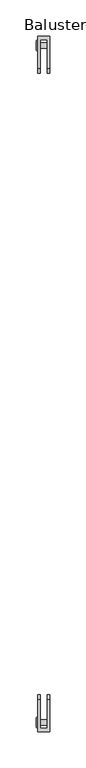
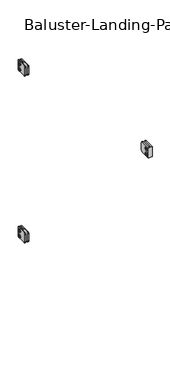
"""IFC4 building model written with IfcOpenShell, lengths in millimetres: railing geometry, Baluster-Landing-Panel-VIVA-BEACON-Upper : Standard_Glass."""

from ifc_helpers import new_model, si_unit, point, frame, origin, place, context, project, spatial, polyline, circle_curve, ellipse_curve, trimmed, outline, extrude, source, transform, mapped, element, save
from ifc_brep_helpers import plane_surface, cylinder_surface, revolved_surface, advanced_brep


def baluster_landing_panel_viva_beacon_upper_standard_glass_00ee7de6(model_context):
    return source(origin(), model_context, "Body", "SolidModel", [
        extrude(outline(polyline([(922.7337279, 970.111725), (920.6867638, 966.5662791), (916.5928355, 966.5662791), (914.5458713, 970.111725), (916.5928355, 973.6571709), (920.6867638, 973.6571709), (922.7337279, 970.111725)])), frame((26.0686477, 0.0, 0.0), z_axis=(1.0, 0.0, 0.0), x_axis=(0.0, 1.0, 0.0)), (0.0, 0.0, 1.0), 1.4969696),
        advanced_brep(
        [(41.1327292, 922.1852455, 970.111725), (41.1327292, 915.0943537, 970.111725), (28.4327292, 915.0943537, 970.111725), (28.4327292, 922.1852455, 970.111725), (28.4327292, 911.2320105, 970.111725), (28.4327292, 926.0475887, 970.111725), (27.5656173, 920.295875, 970.111725), (27.5656173, 916.9837242, 970.111725), (41.1327292, 916.9837242, 970.111725), (41.1327292, 920.295875, 970.111725), (27.5978844, 926.0475887, 970.111725), (27.5978844, 911.2320105, 970.111725), (26.3166123, 912.5132826, 970.111725), (26.3166123, 924.7663167, 970.111725), (26.3166123, 914.3412041, 970.111725), (26.3166123, 922.9383952, 970.111725), (27.5656173, 914.3412041, 970.111725), (27.5656173, 922.9383952, 970.111725)],
        [
            (0, 1, circle_curve(frame((41.1327292, 918.6397996, 970.111725), z_axis=(-1.0, 0.0, 0.0), x_axis=(0.0, -1.0, 0.0)), 3.5454459)),
            (1, 2),
            (2, 3, circle_curve(frame((28.4327292, 918.6397996, 970.111725), z_axis=(1.0, 0.0, 0.0), x_axis=(0.0, -1.0, 0.0)), 3.5454459)),
            (3, 0),
            (1, 0, circle_curve(frame((41.1327292, 918.6397996, 970.111725), z_axis=(-1.0, 0.0, 0.0), x_axis=(0.0, -1.0, 0.0)), 3.5454459)),
            (3, 2, circle_curve(frame((28.4327292, 918.6397996, 970.111725), z_axis=(1.0, 0.0, 0.0), x_axis=(0.0, -1.0, 0.0)), 3.5454459)),
            (2, 4),
            (4, 5, circle_curve(frame((28.4327292, 918.6397996, 970.111725), z_axis=(1.0, 0.0, 0.0), x_axis=(0.0, -1.0, 0.0)), 7.4077891)),
            (5, 3),
            (5, 4, circle_curve(frame((28.4327292, 918.6397996, 970.111725), z_axis=(1.0, 0.0, 0.0), x_axis=(0.0, -1.0, 0.0)), 7.4077891)),
            (6, 7, circle_curve(frame((27.5656173, 918.6397996, 970.111725), z_axis=(-1.0, 0.0, 0.0), x_axis=(0.0, -1.0, 0.0)), 1.6560754)),
            (7, 8),
            (8, 9, circle_curve(frame((41.1327292, 918.6397996, 970.111725), z_axis=(1.0, 0.0, 0.0), x_axis=(0.0, -1.0, 0.0)), 1.6560754)),
            (9, 6),
            (7, 6, circle_curve(frame((27.5656173, 918.6397996, 970.111725), z_axis=(-1.0, 0.0, 0.0), x_axis=(0.0, -1.0, 0.0)), 1.6560754)),
            (9, 8, circle_curve(frame((41.1327292, 918.6397996, 970.111725), z_axis=(1.0, 0.0, 0.0), x_axis=(0.0, -1.0, 0.0)), 1.6560754)),
            (10, 11, circle_curve(frame((27.5978844, 918.6397996, 970.111725), z_axis=(-1.0, 0.0, 0.0), x_axis=(0.0, -1.0, 0.0)), 7.4077891)),
            (11, 12, circle_curve(frame((27.5978844, 912.5132826, 970.111725), z_axis=(0.0, 0.0, -1.0), x_axis=(0.0, -1.0, 0.0)), 1.281272)),
            (12, 13, circle_curve(frame((26.3166123, 918.6397996, 970.111725), z_axis=(1.0, 0.0, 0.0), x_axis=(0.0, -1.0, 0.0)), 6.1265171)),
            (13, 10, circle_curve(frame((27.5978844, 924.7663167, 970.111725), z_axis=(0.0, 0.0, -1.0), x_axis=(0.0, 1.0, 0.0)), 1.281272)),
            (11, 10, circle_curve(frame((27.5978844, 918.6397996, 970.111725), z_axis=(-1.0, 0.0, 0.0), x_axis=(0.0, -1.0, 0.0)), 7.4077891)),
            (13, 12, circle_curve(frame((26.3166123, 918.6397996, 970.111725), z_axis=(1.0, 0.0, 0.0), x_axis=(0.0, -1.0, 0.0)), 6.1265171)),
            (12, 14),
            (14, 15, circle_curve(frame((26.3166123, 918.6397996, 970.111725), z_axis=(1.0, 0.0, 0.0), x_axis=(0.0, -1.0, 0.0)), 4.2985955)),
            (15, 13),
            (15, 14, circle_curve(frame((26.3166123, 918.6397996, 970.111725), z_axis=(1.0, 0.0, 0.0), x_axis=(0.0, -1.0, 0.0)), 4.2985955)),
            (4, 11),
            (10, 5),
            (8, 1),
            (0, 9),
            (14, 16),
            (16, 17, circle_curve(frame((27.5656173, 918.6397996, 970.111725), z_axis=(1.0, 0.0, 0.0), x_axis=(0.0, -1.0, 0.0)), 4.2985955)),
            (17, 15),
            (17, 16, circle_curve(frame((27.5656173, 918.6397996, 970.111725), z_axis=(1.0, 0.0, 0.0), x_axis=(0.0, -1.0, 0.0)), 4.2985955)),
            (16, 7),
            (6, 17),
        ],
        [
            cylinder_surface(frame((31.9294623, 918.6397996, 970.111725), z_axis=(1.0, 0.0, 0.0), x_axis=(0.0, -1.0, 0.0)), 3.5454459),
            plane_surface(frame((28.4327292, 918.6397996, 970.111725), z_axis=(1.0, 0.0, 0.0), x_axis=(0.0, -1.0, 0.0))),
            revolved_surface(polyline([(41.1327292, 916.9837242, 970.111725), (27.5656173, 916.9837242, 970.111725)]), (31.9294623, 918.6397996, 970.111725), (1.0, 0.0, 0.0)),
            revolved_surface(trimmed(ellipse_curve(frame((27.5978844, 912.5132826, 970.111725), z_axis=(0.0, 0.0, 1.0), x_axis=(0.0, -1.0, 0.0)), 1.281272, 1.281272), [point((26.3166123, 912.5132826, 970.111725))], [point((27.5978844, 911.2320105, 970.111725))], True, "CARTESIAN"), (31.9294623, 918.6397996, 970.111725), (1.0, 0.0, 0.0)),
            plane_surface(frame((26.3166123, 918.6397996, 970.111725), z_axis=(-1.0, 0.0, 0.0), x_axis=(0.0, -1.0, 0.0))),
            cylinder_surface(frame((31.9294623, 918.6397996, 970.111725), z_axis=(1.0, 0.0, 0.0), x_axis=(0.0, -1.0, 0.0)), 7.4077891),
            plane_surface(frame((41.1327292, 918.6397996, 970.111725), z_axis=(1.0, 0.0, 0.0), x_axis=(0.0, -1.0, 0.0))),
            revolved_surface(polyline([(27.5656173, 914.3412040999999, 970.111725), (26.3166123, 914.3412040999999, 970.111725)]), (31.9294623, 918.6397996, 970.111725), (1.0, 0.0, 0.0)),
            plane_surface(frame((27.5656173, 918.6397996, 970.111725), z_axis=(-1.0, 0.0, 0.0), x_axis=(0.0, -1.0, 0.0))),
        ],
        [
            (0, [[1, 2, 3, 4]]),
            (0, [[5, -4, 6, -2]]),
            (1, [[-3, 7, 8, 9]]),
            (1, [[-6, -9, 10, -7]]),
            (2, [[11, 12, 13, 14]]),
            (2, [[15, -14, 16, -12]]),
            (3, [[17, 18, 19, 20]]),
            (3, [[21, -20, 22, -18]]),
            (4, [[-19, 23, 24, 25]]),
            (4, [[-22, -25, 26, -23]]),
            (5, [[-8, 27, -17, 28]]),
            (5, [[-10, -28, -21, -27]]),
            (6, [[-13, 29, -1, 30]]),
            (6, [[-16, -30, -5, -29]]),
            (7, [[-24, 31, 32, 33]]),
            (7, [[-26, -33, 34, -31]]),
            (8, [[-32, 35, -11, 36]]),
            (8, [[-34, -36, -15, -35]]),
        ],
    ),
        advanced_brep(
        [(41.1327292, 922.1852455, 945.505475), (41.1327292, 915.0943537, 945.505475), (28.4327292, 915.0943537, 945.505475), (28.4327292, 922.1852455, 945.505475), (28.4327292, 911.2320105, 945.505475), (28.4327292, 926.0475887, 945.505475), (27.5656173, 920.295875, 945.505475), (27.5656173, 916.9837242, 945.505475), (41.1327292, 916.9837242, 945.505475), (41.1327292, 920.295875, 945.505475), (27.5978844, 926.0475887, 945.505475), (27.5978844, 911.2320105, 945.505475), (26.3166123, 912.5132826, 945.505475), (26.3166123, 924.7663167, 945.505475), (26.3166123, 914.3412041, 945.505475), (26.3166123, 922.9383952, 945.505475), (27.5656173, 914.3412041, 945.505475), (27.5656173, 922.9383952, 945.505475)],
        [
            (0, 1, circle_curve(frame((41.1327292, 918.6397996, 945.505475), z_axis=(-1.0, 0.0, 0.0), x_axis=(0.0, -1.0, 0.0)), 3.5454459)),
            (1, 2),
            (2, 3, circle_curve(frame((28.4327292, 918.6397996, 945.505475), z_axis=(1.0, 0.0, 0.0), x_axis=(0.0, -1.0, 0.0)), 3.5454459)),
            (3, 0),
            (1, 0, circle_curve(frame((41.1327292, 918.6397996, 945.505475), z_axis=(-1.0, 0.0, 0.0), x_axis=(0.0, -1.0, 0.0)), 3.5454459)),
            (3, 2, circle_curve(frame((28.4327292, 918.6397996, 945.505475), z_axis=(1.0, 0.0, 0.0), x_axis=(0.0, -1.0, 0.0)), 3.5454459)),
            (2, 4),
            (4, 5, circle_curve(frame((28.4327292, 918.6397996, 945.505475), z_axis=(1.0, 0.0, 0.0), x_axis=(0.0, -1.0, 0.0)), 7.4077891)),
            (5, 3),
            (5, 4, circle_curve(frame((28.4327292, 918.6397996, 945.505475), z_axis=(1.0, 0.0, 0.0), x_axis=(0.0, -1.0, 0.0)), 7.4077891)),
            (6, 7, circle_curve(frame((27.5656173, 918.6397996, 945.505475), z_axis=(-1.0, 0.0, 0.0), x_axis=(0.0, -1.0, 0.0)), 1.6560754)),
            (7, 8),
            (8, 9, circle_curve(frame((41.1327292, 918.6397996, 945.505475), z_axis=(1.0, 0.0, 0.0), x_axis=(0.0, -1.0, 0.0)), 1.6560754)),
            (9, 6),
            (7, 6, circle_curve(frame((27.5656173, 918.6397996, 945.505475), z_axis=(-1.0, 0.0, 0.0), x_axis=(0.0, -1.0, 0.0)), 1.6560754)),
            (9, 8, circle_curve(frame((41.1327292, 918.6397996, 945.505475), z_axis=(1.0, 0.0, 0.0), x_axis=(0.0, -1.0, 0.0)), 1.6560754)),
            (10, 11, circle_curve(frame((27.5978844, 918.6397996, 945.505475), z_axis=(-1.0, 0.0, 0.0), x_axis=(0.0, -1.0, 0.0)), 7.4077891)),
            (11, 12, circle_curve(frame((27.5978844, 912.5132826, 945.505475), z_axis=(0.0, 0.0, -1.0), x_axis=(0.0, -1.0, 0.0)), 1.281272)),
            (12, 13, circle_curve(frame((26.3166123, 918.6397996, 945.505475), z_axis=(1.0, 0.0, 0.0), x_axis=(0.0, -1.0, 0.0)), 6.1265171)),
            (13, 10, circle_curve(frame((27.5978844, 924.7663167, 945.505475), z_axis=(0.0, 0.0, -1.0), x_axis=(0.0, 1.0, 0.0)), 1.281272)),
            (11, 10, circle_curve(frame((27.5978844, 918.6397996, 945.505475), z_axis=(-1.0, 0.0, 0.0), x_axis=(0.0, -1.0, 0.0)), 7.4077891)),
            (13, 12, circle_curve(frame((26.3166123, 918.6397996, 945.505475), z_axis=(1.0, 0.0, 0.0), x_axis=(0.0, -1.0, 0.0)), 6.1265171)),
            (12, 14),
            (14, 15, circle_curve(frame((26.3166123, 918.6397996, 945.505475), z_axis=(1.0, 0.0, 0.0), x_axis=(0.0, -1.0, 0.0)), 4.2985955)),
            (15, 13),
            (15, 14, circle_curve(frame((26.3166123, 918.6397996, 945.505475), z_axis=(1.0, 0.0, 0.0), x_axis=(0.0, -1.0, 0.0)), 4.2985955)),
            (8, 1),
            (0, 9),
            (4, 11),
            (10, 5),
            (14, 16),
            (16, 17, circle_curve(frame((27.5656173, 918.6397996, 945.505475), z_axis=(1.0, 0.0, 0.0), x_axis=(0.0, -1.0, 0.0)), 4.2985955)),
            (17, 15),
            (17, 16, circle_curve(frame((27.5656173, 918.6397996, 945.505475), z_axis=(1.0, 0.0, 0.0), x_axis=(0.0, -1.0, 0.0)), 4.2985955)),
            (16, 7),
            (6, 17),
        ],
        [
            cylinder_surface(frame((31.9294623, 918.6397996, 945.505475), z_axis=(1.0, 0.0, 0.0), x_axis=(0.0, -1.0, 0.0)), 3.5454459),
            plane_surface(frame((28.4327292, 918.6397996, 945.505475), z_axis=(1.0, 0.0, 0.0), x_axis=(0.0, -1.0, 0.0))),
            revolved_surface(polyline([(41.1327292, 916.9837242, 945.505475), (27.5656173, 916.9837242, 945.505475)]), (31.9294623, 918.6397996, 945.505475), (1.0, 0.0, 0.0)),
            revolved_surface(trimmed(ellipse_curve(frame((27.5978844, 912.5132826, 945.505475), z_axis=(0.0, 0.0, 1.0), x_axis=(0.0, -1.0, 0.0)), 1.281272, 1.281272), [point((26.3166123, 912.5132826, 945.505475))], [point((27.5978844, 911.2320105, 945.505475))], True, "CARTESIAN"), (31.9294623, 918.6397996, 945.505475), (1.0, 0.0, 0.0)),
            plane_surface(frame((26.3166123, 918.6397996, 945.505475), z_axis=(-1.0, 0.0, 0.0), x_axis=(0.0, -1.0, 0.0))),
            plane_surface(frame((41.1327292, 918.6397996, 945.505475), z_axis=(1.0, 0.0, 0.0), x_axis=(0.0, -1.0, 0.0))),
            cylinder_surface(frame((31.9294623, 918.6397996, 945.505475), z_axis=(1.0, 0.0, 0.0), x_axis=(0.0, -1.0, 0.0)), 7.4077891),
            revolved_surface(polyline([(27.5656173, 914.3412040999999, 945.505475), (26.3166123, 914.3412040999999, 945.505475)]), (31.9294623, 918.6397996, 945.505475), (1.0, 0.0, 0.0)),
            plane_surface(frame((27.5656173, 918.6397996, 945.505475), z_axis=(-1.0, 0.0, 0.0), x_axis=(0.0, -1.0, 0.0))),
        ],
        [
            (0, [[1, 2, 3, 4]]),
            (0, [[5, -4, 6, -2]]),
            (1, [[-3, 7, 8, 9]]),
            (1, [[-6, -9, 10, -7]]),
            (2, [[11, 12, 13, 14]]),
            (2, [[15, -14, 16, -12]]),
            (3, [[17, 18, 19, 20]]),
            (3, [[21, -20, 22, -18]]),
            (4, [[-19, 23, 24, 25]]),
            (4, [[-22, -25, 26, -23]]),
            (5, [[-13, 27, -1, 28]]),
            (5, [[-16, -28, -5, -27]]),
            (6, [[-8, 29, -17, 30]]),
            (6, [[-10, -30, -21, -29]]),
            (7, [[-24, 31, 32, 33]]),
            (7, [[-26, -33, 34, -31]]),
            (8, [[-32, 35, -11, 36]]),
            (8, [[-34, -36, -15, -35]]),
        ],
    ),
        extrude(outline(polyline([(922.7337279, 945.505475), (920.6867638, 941.9600291), (916.5928355, 941.9600291), (914.5458713, 945.505475), (916.5928355, 949.0509209), (920.6867638, 949.0509209), (922.7337279, 945.505475)])), frame((26.0686477, 0.0, 0.0), z_axis=(1.0, 0.0, 0.0), x_axis=(0.0, 1.0, 0.0)), (0.0, 0.0, 1.0), 1.4969696),
        advanced_brep(
        [(28.4327292, 931.2731444, 980.0336), (28.4327292, 931.2731444, 935.5836), (28.4327292, 886.8231444, 935.5836), (28.4327292, 880.4731444, 941.9336), (28.4327292, 880.4731444, 973.6836), (28.4327292, 886.8231444, 980.0336), (44.3077292, 931.2731444, 980.0336), (44.3077292, 886.8231444, 980.0336), (44.3077292, 880.4731444, 973.6836), (44.3077292, 880.4731444, 941.9336), (44.3077292, 886.8231444, 935.5836), (44.3077292, 931.2731444, 935.5836), (41.1327292, 886.8231444, 935.5836), (41.1327292, 926.555064, 935.5836), (31.6077292, 926.555064, 935.5836), (31.6077292, 886.8231444, 935.5836), (41.1327292, 926.555064, 980.0336), (31.6077292, 926.555064, 980.0336), (31.6077292, 886.8231444, 980.0336), (31.6077292, 880.4731444, 973.6836), (31.6077292, 880.4731444, 941.9336), (41.1327292, 880.4731444, 941.9336), (41.1327292, 880.4731444, 973.6836), (41.1327292, 886.8231444, 980.0336)],
        [
            (0, 1),
            (1, 2),
            (2, 3, circle_curve(frame((28.4327292, 886.8231444, 941.9336), z_axis=(-1.0, 0.0, 0.0), x_axis=(0.0, -1.0, 0.0)), 6.35)),
            (3, 4),
            (4, 5, circle_curve(frame((28.4327292, 886.8231444, 973.6836), z_axis=(-1.0, 0.0, 0.0), x_axis=(0.0, -1.0, 0.0)), 6.35)),
            (5, 0),
            (6, 7),
            (7, 8, circle_curve(frame((44.3077292, 886.8231444, 973.6836), z_axis=(1.0, 0.0, 0.0), x_axis=(0.0, -1.0, 0.0)), 6.35)),
            (8, 9),
            (9, 10, circle_curve(frame((44.3077292, 886.8231444, 941.9336), z_axis=(1.0, 0.0, 0.0), x_axis=(0.0, -1.0, 0.0)), 6.35)),
            (10, 11),
            (11, 6),
            (0, 6),
            (11, 1),
            (10, 12),
            (12, 13),
            (13, 14),
            (14, 15),
            (15, 2),
            (13, 16),
            (16, 17),
            (17, 14),
            (17, 18),
            (18, 19, circle_curve(frame((31.6077292, 886.8231444, 973.6836), z_axis=(1.0, 0.0, 0.0), x_axis=(0.0, -1.0, 0.0)), 6.35)),
            (19, 20),
            (20, 15, circle_curve(frame((31.6077292, 886.8231444, 941.9336), z_axis=(1.0, 0.0, 0.0), x_axis=(0.0, -1.0, 0.0)), 6.35)),
            (12, 21, circle_curve(frame((41.1327292, 886.8231444, 941.9336), z_axis=(-1.0, 0.0, 0.0), x_axis=(0.0, -1.0, 0.0)), 6.35)),
            (21, 22),
            (22, 23, circle_curve(frame((41.1327292, 886.8231444, 973.6836), z_axis=(-1.0, 0.0, 0.0), x_axis=(0.0, -1.0, 0.0)), 6.35)),
            (23, 16),
            (20, 3),
            (9, 21),
            (19, 4),
            (8, 22),
            (18, 5),
            (7, 23),
        ],
        [
            plane_surface(frame((28.4327292, 931.2731444, 935.5836), z_axis=(-1.0, 0.0, 0.0), x_axis=(0.0, 0.0, -1.0))),
            plane_surface(frame((44.3077292, 931.2731444, 935.5836), z_axis=(1.0, 0.0, 0.0), x_axis=(0.0, 0.0, 1.0))),
            plane_surface(frame((28.4327292, 931.2731444, 980.0336), z_axis=(0.0, 1.0, 0.0), x_axis=(1.0, 0.0, 0.0))),
            plane_surface(frame((28.4327292, 931.2731444, 935.5836), z_axis=(0.0, 0.0, -1.0), x_axis=(1.0, 0.0, 0.0))),
            plane_surface(frame((41.1327292, 926.555064, 992.7336), z_axis=(0.0, -1.0, 0.0), x_axis=(0.0, 0.0, -1.0))),
            plane_surface(frame((31.6077292, 926.555064, 992.7336), z_axis=(1.0, 0.0, 0.0), x_axis=(0.0, 0.0, -1.0))),
            plane_surface(frame((41.1327292, 867.7731444, 992.7336), z_axis=(-1.0, 0.0, 0.0), x_axis=(0.0, 0.0, -1.0))),
            cylinder_surface(frame((44.3077292, 886.8231444, 941.9336), z_axis=(-1.0, 0.0, 0.0), x_axis=(0.0, -1.0, 0.0)), 6.35),
            plane_surface(frame((28.4327292, 880.4731444, 941.9336), z_axis=(0.0, -1.0, 0.0), x_axis=(1.0, 0.0, 0.0))),
            cylinder_surface(frame((44.3077292, 886.8231444, 973.6836), z_axis=(-1.0, 0.0, 0.0), x_axis=(0.0, -1.0, 0.0)), 6.35),
            plane_surface(frame((28.4327292, 886.8231444, 980.0336), z_axis=(0.0, 0.0, 1.0), x_axis=(1.0, 0.0, 0.0))),
        ],
        [
            (0, [[1, 2, 3, 4, 5, 6]]),
            (1, [[7, 8, 9, 10, 11, 12]]),
            (2, [[-1, 13, -12, 14]]),
            (3, [[-2, -14, -11, 15, 16, 17, 18, 19]]),
            (4, [[20, 21, 22, -17]]),
            (5, [[-22, 23, 24, 25, 26, -18]]),
            (6, [[-20, -16, 27, 28, 29, 30]]),
            (7, [[-3, -19, -26, 31]]),
            (7, [[-10, 32, -27, -15]]),
            (8, [[-4, -31, -25, 33]]),
            (8, [[-9, 34, -28, -32]]),
            (9, [[-5, -33, -24, 35]]),
            (9, [[-8, 36, -29, -34]]),
            (10, [[-6, -35, -23, -21, -30, -36, -7, -13]]),
        ],
    ),
        extrude(outline(polyline([(922.7337279, 220.73255), (920.6867638, 217.1871041), (916.5928355, 217.1871041), (914.5458713, 220.73255), (916.5928355, 224.2779959), (920.6867638, 224.2779959), (922.7337279, 220.73255)])), frame((26.0686477, 0.0, 0.0), z_axis=(1.0, 0.0, 0.0), x_axis=(0.0, 1.0, 0.0)), (0.0, 0.0, 1.0), 1.4969696),
        advanced_brep(
        [(41.1327292, 922.1852455, 220.73255), (41.1327292, 915.0943537, 220.73255), (28.4327292, 915.0943537, 220.73255), (28.4327292, 922.1852455, 220.73255), (28.4327292, 911.2320105, 220.73255), (28.4327292, 926.0475887, 220.73255), (27.5656173, 920.295875, 220.73255), (27.5656173, 916.9837242, 220.73255), (41.1327292, 916.9837242, 220.73255), (41.1327292, 920.295875, 220.73255), (27.5978844, 926.0475887, 220.73255), (27.5978844, 911.2320105, 220.73255), (26.3166123, 912.5132826, 220.73255), (26.3166123, 924.7663167, 220.73255), (26.3166123, 914.3412041, 220.73255), (26.3166123, 922.9383952, 220.73255), (27.5656173, 914.3412041, 220.73255), (27.5656173, 922.9383952, 220.73255)],
        [
            (0, 1, circle_curve(frame((41.1327292, 918.6397996, 220.73255), z_axis=(-1.0, 0.0, 0.0), x_axis=(0.0, -1.0, 0.0)), 3.5454459)),
            (1, 2),
            (2, 3, circle_curve(frame((28.4327292, 918.6397996, 220.73255), z_axis=(1.0, 0.0, 0.0), x_axis=(0.0, -1.0, 0.0)), 3.5454459)),
            (3, 0),
            (1, 0, circle_curve(frame((41.1327292, 918.6397996, 220.73255), z_axis=(-1.0, 0.0, 0.0), x_axis=(0.0, -1.0, 0.0)), 3.5454459)),
            (3, 2, circle_curve(frame((28.4327292, 918.6397996, 220.73255), z_axis=(1.0, 0.0, 0.0), x_axis=(0.0, -1.0, 0.0)), 3.5454459)),
            (2, 4),
            (4, 5, circle_curve(frame((28.4327292, 918.6397996, 220.73255), z_axis=(1.0, 0.0, 0.0), x_axis=(0.0, -1.0, 0.0)), 7.4077891)),
            (5, 3),
            (5, 4, circle_curve(frame((28.4327292, 918.6397996, 220.73255), z_axis=(1.0, 0.0, 0.0), x_axis=(0.0, -1.0, 0.0)), 7.4077891)),
            (6, 7, circle_curve(frame((27.5656173, 918.6397996, 220.73255), z_axis=(-1.0, 0.0, 0.0), x_axis=(0.0, -1.0, 0.0)), 1.6560754)),
            (7, 8),
            (8, 9, circle_curve(frame((41.1327292, 918.6397996, 220.73255), z_axis=(1.0, 0.0, 0.0), x_axis=(0.0, -1.0, 0.0)), 1.6560754)),
            (9, 6),
            (7, 6, circle_curve(frame((27.5656173, 918.6397996, 220.73255), z_axis=(-1.0, 0.0, 0.0), x_axis=(0.0, -1.0, 0.0)), 1.6560754)),
            (9, 8, circle_curve(frame((41.1327292, 918.6397996, 220.73255), z_axis=(1.0, 0.0, 0.0), x_axis=(0.0, -1.0, 0.0)), 1.6560754)),
            (10, 11, circle_curve(frame((27.5978844, 918.6397996, 220.73255), z_axis=(-1.0, 0.0, 0.0), x_axis=(0.0, -1.0, 0.0)), 7.4077891)),
            (11, 12, circle_curve(frame((27.5978844, 912.5132826, 220.73255), z_axis=(0.0, 0.0, -1.0), x_axis=(0.0, -1.0, 0.0)), 1.281272)),
            (12, 13, circle_curve(frame((26.3166123, 918.6397996, 220.73255), z_axis=(1.0, 0.0, 0.0), x_axis=(0.0, -1.0, 0.0)), 6.1265171)),
            (13, 10, circle_curve(frame((27.5978844, 924.7663167, 220.73255), z_axis=(0.0, 0.0, -1.0), x_axis=(0.0, 1.0, 0.0)), 1.281272)),
            (11, 10, circle_curve(frame((27.5978844, 918.6397996, 220.73255), z_axis=(-1.0, 0.0, 0.0), x_axis=(0.0, -1.0, 0.0)), 7.4077891)),
            (13, 12, circle_curve(frame((26.3166123, 918.6397996, 220.73255), z_axis=(1.0, 0.0, 0.0), x_axis=(0.0, -1.0, 0.0)), 6.1265171)),
            (12, 14),
            (14, 15, circle_curve(frame((26.3166123, 918.6397996, 220.73255), z_axis=(1.0, 0.0, 0.0), x_axis=(0.0, -1.0, 0.0)), 4.2985955)),
            (15, 13),
            (15, 14, circle_curve(frame((26.3166123, 918.6397996, 220.73255), z_axis=(1.0, 0.0, 0.0), x_axis=(0.0, -1.0, 0.0)), 4.2985955)),
            (4, 11),
            (10, 5),
            (8, 1),
            (0, 9),
            (14, 16),
            (16, 17, circle_curve(frame((27.5656173, 918.6397996, 220.73255), z_axis=(1.0, 0.0, 0.0), x_axis=(0.0, -1.0, 0.0)), 4.2985955)),
            (17, 15),
            (17, 16, circle_curve(frame((27.5656173, 918.6397996, 220.73255), z_axis=(1.0, 0.0, 0.0), x_axis=(0.0, -1.0, 0.0)), 4.2985955)),
            (16, 7),
            (6, 17),
        ],
        [
            cylinder_surface(frame((31.9294623, 918.6397996, 220.73255), z_axis=(1.0, 0.0, 0.0), x_axis=(0.0, -1.0, 0.0)), 3.5454459),
            plane_surface(frame((28.4327292, 918.6397996, 220.73255), z_axis=(1.0, 0.0, 0.0), x_axis=(0.0, -1.0, 0.0))),
            revolved_surface(polyline([(41.1327292, 916.9837242, 220.73255), (27.5656173, 916.9837242, 220.73255)]), (31.9294623, 918.6397996, 220.73255), (1.0, 0.0, 0.0)),
            revolved_surface(trimmed(ellipse_curve(frame((27.5978844, 912.5132826, 220.73255), z_axis=(0.0, 0.0, 1.0), x_axis=(0.0, -1.0, 0.0)), 1.281272, 1.281272), [point((26.3166123, 912.5132826, 220.73255))], [point((27.5978844, 911.2320105, 220.73255))], True, "CARTESIAN"), (31.9294623, 918.6397996, 220.73255), (1.0, 0.0, 0.0)),
            plane_surface(frame((26.3166123, 918.6397996, 220.73255), z_axis=(-1.0, 0.0, 0.0), x_axis=(0.0, -1.0, 0.0))),
            cylinder_surface(frame((31.9294623, 918.6397996, 220.73255), z_axis=(1.0, 0.0, 0.0), x_axis=(0.0, -1.0, 0.0)), 7.4077891),
            plane_surface(frame((41.1327292, 918.6397996, 220.73255), z_axis=(1.0, 0.0, 0.0), x_axis=(0.0, -1.0, 0.0))),
            revolved_surface(polyline([(27.5656173, 914.3412040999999, 220.73255), (26.3166123, 914.3412040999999, 220.73255)]), (31.9294623, 918.6397996, 220.73255), (1.0, 0.0, 0.0)),
            plane_surface(frame((27.5656173, 918.6397996, 220.73255), z_axis=(-1.0, 0.0, 0.0), x_axis=(0.0, -1.0, 0.0))),
        ],
        [
            (0, [[1, 2, 3, 4]]),
            (0, [[5, -4, 6, -2]]),
            (1, [[-3, 7, 8, 9]]),
            (1, [[-6, -9, 10, -7]]),
            (2, [[11, 12, 13, 14]]),
            (2, [[15, -14, 16, -12]]),
            (3, [[17, 18, 19, 20]]),
            (3, [[21, -20, 22, -18]]),
            (4, [[-19, 23, 24, 25]]),
            (4, [[-22, -25, 26, -23]]),
            (5, [[-8, 27, -17, 28]]),
            (5, [[-10, -28, -21, -27]]),
            (6, [[-13, 29, -1, 30]]),
            (6, [[-16, -30, -5, -29]]),
            (7, [[-24, 31, 32, 33]]),
            (7, [[-26, -33, 34, -31]]),
            (8, [[-32, 35, -11, 36]]),
            (8, [[-34, -36, -15, -35]]),
        ],
    ),
        advanced_brep(
        [(41.1327292, 922.1852455, 196.1263), (41.1327292, 915.0943537, 196.1263), (28.4327292, 915.0943537, 196.1263), (28.4327292, 922.1852455, 196.1263), (28.4327292, 911.2320105, 196.1263), (28.4327292, 926.0475887, 196.1263), (27.5656173, 920.295875, 196.1263), (27.5656173, 916.9837242, 196.1263), (41.1327292, 916.9837242, 196.1263), (41.1327292, 920.295875, 196.1263), (27.5978844, 926.0475887, 196.1263), (27.5978844, 911.2320105, 196.1263), (26.3166123, 912.5132826, 196.1263), (26.3166123, 924.7663167, 196.1263), (26.3166123, 914.3412041, 196.1263), (26.3166123, 922.9383952, 196.1263), (27.5656173, 914.3412041, 196.1263), (27.5656173, 922.9383952, 196.1263)],
        [
            (0, 1, circle_curve(frame((41.1327292, 918.6397996, 196.1263), z_axis=(-1.0, 0.0, 0.0), x_axis=(0.0, -1.0, 0.0)), 3.5454459)),
            (1, 2),
            (2, 3, circle_curve(frame((28.4327292, 918.6397996, 196.1263), z_axis=(1.0, 0.0, 0.0), x_axis=(0.0, -1.0, 0.0)), 3.5454459)),
            (3, 0),
            (1, 0, circle_curve(frame((41.1327292, 918.6397996, 196.1263), z_axis=(-1.0, 0.0, 0.0), x_axis=(0.0, -1.0, 0.0)), 3.5454459)),
            (3, 2, circle_curve(frame((28.4327292, 918.6397996, 196.1263), z_axis=(1.0, 0.0, 0.0), x_axis=(0.0, -1.0, 0.0)), 3.5454459)),
            (2, 4),
            (4, 5, circle_curve(frame((28.4327292, 918.6397996, 196.1263), z_axis=(1.0, 0.0, 0.0), x_axis=(0.0, -1.0, 0.0)), 7.4077891)),
            (5, 3),
            (5, 4, circle_curve(frame((28.4327292, 918.6397996, 196.1263), z_axis=(1.0, 0.0, 0.0), x_axis=(0.0, -1.0, 0.0)), 7.4077891)),
            (6, 7, circle_curve(frame((27.5656173, 918.6397996, 196.1263), z_axis=(-1.0, 0.0, 0.0), x_axis=(0.0, -1.0, 0.0)), 1.6560754)),
            (7, 8),
            (8, 9, circle_curve(frame((41.1327292, 918.6397996, 196.1263), z_axis=(1.0, 0.0, 0.0), x_axis=(0.0, -1.0, 0.0)), 1.6560754)),
            (9, 6),
            (7, 6, circle_curve(frame((27.5656173, 918.6397996, 196.1263), z_axis=(-1.0, 0.0, 0.0), x_axis=(0.0, -1.0, 0.0)), 1.6560754)),
            (9, 8, circle_curve(frame((41.1327292, 918.6397996, 196.1263), z_axis=(1.0, 0.0, 0.0), x_axis=(0.0, -1.0, 0.0)), 1.6560754)),
            (10, 11, circle_curve(frame((27.5978844, 918.6397996, 196.1263), z_axis=(-1.0, 0.0, 0.0), x_axis=(0.0, -1.0, 0.0)), 7.4077891)),
            (11, 12, circle_curve(frame((27.5978844, 912.5132826, 196.1263), z_axis=(0.0, 0.0, -1.0), x_axis=(0.0, -1.0, 0.0)), 1.281272)),
            (12, 13, circle_curve(frame((26.3166123, 918.6397996, 196.1263), z_axis=(1.0, 0.0, 0.0), x_axis=(0.0, -1.0, 0.0)), 6.1265171)),
            (13, 10, circle_curve(frame((27.5978844, 924.7663167, 196.1263), z_axis=(0.0, 0.0, -1.0), x_axis=(0.0, 1.0, 0.0)), 1.281272)),
            (11, 10, circle_curve(frame((27.5978844, 918.6397996, 196.1263), z_axis=(-1.0, 0.0, 0.0), x_axis=(0.0, -1.0, 0.0)), 7.4077891)),
            (13, 12, circle_curve(frame((26.3166123, 918.6397996, 196.1263), z_axis=(1.0, 0.0, 0.0), x_axis=(0.0, -1.0, 0.0)), 6.1265171)),
            (12, 14),
            (14, 15, circle_curve(frame((26.3166123, 918.6397996, 196.1263), z_axis=(1.0, 0.0, 0.0), x_axis=(0.0, -1.0, 0.0)), 4.2985955)),
            (15, 13),
            (15, 14, circle_curve(frame((26.3166123, 918.6397996, 196.1263), z_axis=(1.0, 0.0, 0.0), x_axis=(0.0, -1.0, 0.0)), 4.2985955)),
            (8, 1),
            (0, 9),
            (4, 11),
            (10, 5),
            (14, 16),
            (16, 17, circle_curve(frame((27.5656173, 918.6397996, 196.1263), z_axis=(1.0, 0.0, 0.0), x_axis=(0.0, -1.0, 0.0)), 4.2985955)),
            (17, 15),
            (17, 16, circle_curve(frame((27.5656173, 918.6397996, 196.1263), z_axis=(1.0, 0.0, 0.0), x_axis=(0.0, -1.0, 0.0)), 4.2985955)),
            (16, 7),
            (6, 17),
        ],
        [
            cylinder_surface(frame((31.9294623, 918.6397996, 196.1263), z_axis=(1.0, 0.0, 0.0), x_axis=(0.0, -1.0, 0.0)), 3.5454459),
            plane_surface(frame((28.4327292, 918.6397996, 196.1263), z_axis=(1.0, 0.0, 0.0), x_axis=(0.0, -1.0, 0.0))),
            revolved_surface(polyline([(41.1327292, 916.9837242, 196.1263), (27.5656173, 916.9837242, 196.1263)]), (31.9294623, 918.6397996, 196.1263), (1.0, 0.0, 0.0)),
            revolved_surface(trimmed(ellipse_curve(frame((27.5978844, 912.5132826, 196.1263), z_axis=(0.0, 0.0, 1.0), x_axis=(0.0, -1.0, 0.0)), 1.281272, 1.281272), [point((26.3166123, 912.5132826, 196.1263))], [point((27.5978844, 911.2320105, 196.1263))], True, "CARTESIAN"), (31.9294623, 918.6397996, 196.1263), (1.0, 0.0, 0.0)),
            plane_surface(frame((26.3166123, 918.6397996, 196.1263), z_axis=(-1.0, 0.0, 0.0), x_axis=(0.0, -1.0, 0.0))),
            plane_surface(frame((41.1327292, 918.6397996, 196.1263), z_axis=(1.0, 0.0, 0.0), x_axis=(0.0, -1.0, 0.0))),
            cylinder_surface(frame((31.9294623, 918.6397996, 196.1263), z_axis=(1.0, 0.0, 0.0), x_axis=(0.0, -1.0, 0.0)), 7.4077891),
            revolved_surface(polyline([(27.5656173, 914.3412040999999, 196.1263), (26.3166123, 914.3412040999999, 196.1263)]), (31.9294623, 918.6397996, 196.1263), (1.0, 0.0, 0.0)),
            plane_surface(frame((27.5656173, 918.6397996, 196.1263), z_axis=(-1.0, 0.0, 0.0), x_axis=(0.0, -1.0, 0.0))),
        ],
        [
            (0, [[1, 2, 3, 4]]),
            (0, [[5, -4, 6, -2]]),
            (1, [[-3, 7, 8, 9]]),
            (1, [[-6, -9, 10, -7]]),
            (2, [[11, 12, 13, 14]]),
            (2, [[15, -14, 16, -12]]),
            (3, [[17, 18, 19, 20]]),
            (3, [[21, -20, 22, -18]]),
            (4, [[-19, 23, 24, 25]]),
            (4, [[-22, -25, 26, -23]]),
            (5, [[-13, 27, -1, 28]]),
            (5, [[-16, -28, -5, -27]]),
            (6, [[-8, 29, -17, 30]]),
            (6, [[-10, -30, -21, -29]]),
            (7, [[-24, 31, 32, 33]]),
            (7, [[-26, -33, 34, -31]]),
            (8, [[-32, 35, -11, 36]]),
            (8, [[-34, -36, -15, -35]]),
        ],
    ),
        extrude(outline(polyline([(922.7337279, 196.1263), (920.6867638, 192.5808541), (916.5928355, 192.5808541), (914.5458713, 196.1263), (916.5928355, 199.6717459), (920.6867638, 199.6717459), (922.7337279, 196.1263)])), frame((26.0686477, 0.0, 0.0), z_axis=(1.0, 0.0, 0.0), x_axis=(0.0, 1.0, 0.0)), (0.0, 0.0, 1.0), 1.4969696),
        advanced_brep(
        [(28.4327292, 931.2731444, 230.654425), (28.4327292, 931.2731444, 186.204425), (28.4327292, 886.8231444, 186.204425), (28.4327292, 880.4731444, 192.554425), (28.4327292, 880.4731444, 224.304425), (28.4327292, 886.8231444, 230.654425), (44.3077292, 931.2731444, 230.654425), (44.3077292, 886.8231444, 230.654425), (44.3077292, 880.4731444, 224.304425), (44.3077292, 880.4731444, 192.554425), (44.3077292, 886.8231444, 186.204425), (44.3077292, 931.2731444, 186.204425), (41.1327292, 886.8231444, 186.204425), (41.1327292, 926.555064, 186.204425), (31.6077292, 926.555064, 186.204425), (31.6077292, 886.8231444, 186.204425), (41.1327292, 926.555064, 230.654425), (31.6077292, 926.555064, 230.654425), (31.6077292, 886.8231444, 230.654425), (31.6077292, 880.4731444, 224.304425), (31.6077292, 880.4731444, 192.554425), (41.1327292, 880.4731444, 192.554425), (41.1327292, 880.4731444, 224.304425), (41.1327292, 886.8231444, 230.654425)],
        [
            (0, 1),
            (1, 2),
            (2, 3, circle_curve(frame((28.4327292, 886.8231444, 192.554425), z_axis=(-1.0, 0.0, 0.0), x_axis=(0.0, -1.0, 0.0)), 6.35)),
            (3, 4),
            (4, 5, circle_curve(frame((28.4327292, 886.8231444, 224.304425), z_axis=(-1.0, 0.0, 0.0), x_axis=(0.0, -1.0, 0.0)), 6.35)),
            (5, 0),
            (6, 7),
            (7, 8, circle_curve(frame((44.3077292, 886.8231444, 224.304425), z_axis=(1.0, 0.0, 0.0), x_axis=(0.0, -1.0, 0.0)), 6.35)),
            (8, 9),
            (9, 10, circle_curve(frame((44.3077292, 886.8231444, 192.554425), z_axis=(1.0, 0.0, 0.0), x_axis=(0.0, -1.0, 0.0)), 6.35)),
            (10, 11),
            (11, 6),
            (0, 6),
            (11, 1),
            (10, 12),
            (12, 13),
            (13, 14),
            (14, 15),
            (15, 2),
            (13, 16),
            (16, 17),
            (17, 14),
            (17, 18),
            (18, 19, circle_curve(frame((31.6077292, 886.8231444, 224.304425), z_axis=(1.0, 0.0, 0.0), x_axis=(0.0, -1.0, 0.0)), 6.35)),
            (19, 20),
            (20, 15, circle_curve(frame((31.6077292, 886.8231444, 192.554425), z_axis=(1.0, 0.0, 0.0), x_axis=(0.0, -1.0, 0.0)), 6.35)),
            (12, 21, circle_curve(frame((41.1327292, 886.8231444, 192.554425), z_axis=(-1.0, 0.0, 0.0), x_axis=(0.0, -1.0, 0.0)), 6.35)),
            (21, 22),
            (22, 23, circle_curve(frame((41.1327292, 886.8231444, 224.304425), z_axis=(-1.0, 0.0, 0.0), x_axis=(0.0, -1.0, 0.0)), 6.35)),
            (23, 16),
            (20, 3),
            (9, 21),
            (19, 4),
            (8, 22),
            (18, 5),
            (7, 23),
        ],
        [
            plane_surface(frame((28.4327292, 931.2731444, 186.204425), z_axis=(-1.0, 0.0, 0.0), x_axis=(0.0, 0.0, -1.0))),
            plane_surface(frame((44.3077292, 931.2731444, 186.204425), z_axis=(1.0, 0.0, 0.0), x_axis=(0.0, 0.0, 1.0))),
            plane_surface(frame((28.4327292, 931.2731444, 230.654425), z_axis=(0.0, 1.0, 0.0), x_axis=(1.0, 0.0, 0.0))),
            plane_surface(frame((28.4327292, 931.2731444, 186.204425), z_axis=(0.0, 0.0, -1.0), x_axis=(1.0, 0.0, 0.0))),
            plane_surface(frame((41.1327292, 926.555064, 243.354425), z_axis=(0.0, -1.0, 0.0), x_axis=(0.0, 0.0, -1.0))),
            plane_surface(frame((31.6077292, 926.555064, 243.354425), z_axis=(1.0, 0.0, 0.0), x_axis=(0.0, 0.0, -1.0))),
            plane_surface(frame((41.1327292, 867.7731444, 243.354425), z_axis=(-1.0, 0.0, 0.0), x_axis=(0.0, 0.0, -1.0))),
            cylinder_surface(frame((44.3077292, 886.8231444, 192.554425), z_axis=(-1.0, 0.0, 0.0), x_axis=(0.0, -1.0, 0.0)), 6.35),
            plane_surface(frame((28.4327292, 880.4731444, 192.554425), z_axis=(0.0, -1.0, 0.0), x_axis=(1.0, 0.0, 0.0))),
            cylinder_surface(frame((44.3077292, 886.8231444, 224.304425), z_axis=(-1.0, 0.0, 0.0), x_axis=(0.0, -1.0, 0.0)), 6.35),
            plane_surface(frame((28.4327292, 886.8231444, 230.654425), z_axis=(0.0, 0.0, 1.0), x_axis=(1.0, 0.0, 0.0))),
        ],
        [
            (0, [[1, 2, 3, 4, 5, 6]]),
            (1, [[7, 8, 9, 10, 11, 12]]),
            (2, [[-1, 13, -12, 14]]),
            (3, [[-2, -14, -11, 15, 16, 17, 18, 19]]),
            (4, [[20, 21, 22, -17]]),
            (5, [[-22, 23, 24, 25, 26, -18]]),
            (6, [[-20, -16, 27, 28, 29, 30]]),
            (7, [[-3, -19, -26, 31]]),
            (7, [[-10, 32, -27, -15]]),
            (8, [[-4, -31, -25, 33]]),
            (8, [[-9, 34, -28, -32]]),
            (9, [[-5, -33, -24, 35]]),
            (9, [[-8, 36, -29, -34]]),
            (10, [[-6, -35, -23, -21, -30, -36, -7, -13]]),
        ],
    ),
        extrude(outline(polyline([(-18.4480835, 1154.8641267), (-16.4011194, 1158.4095726), (-12.3071911, 1158.4095726), (-10.2602269, 1154.8641267), (-12.3071911, 1151.3186808), (-16.4011194, 1151.3186808), (-18.4480835, 1154.8641267)])), frame((26.0686477, 0.0, 0.0), z_axis=(1.0, 0.0, 0.0), x_axis=(0.0, 1.0, 0.0)), (0.0, 0.0, 1.0), 1.4969696),
        advanced_brep(
        [(41.1327292, -17.8996011, 1154.8641267), (28.4327292, -17.8996011, 1154.8641267), (28.4327292, -10.8087093, 1154.8641267), (41.1327292, -10.8087093, 1154.8641267), (28.4327292, -21.7619443, 1154.8641267), (28.4327292, -6.9463661, 1154.8641267), (27.5656173, -16.0102306, 1154.8641267), (41.1327292, -16.0102306, 1154.8641267), (41.1327292, -12.6980798, 1154.8641267), (27.5656173, -12.6980798, 1154.8641267), (27.5978844, -21.7619443, 1154.8641267), (26.3166123, -20.4806723, 1154.8641267), (26.3166123, -8.2276382, 1154.8641267), (27.5978844, -6.9463661, 1154.8641267), (26.3166123, -18.6527508, 1154.8641267), (26.3166123, -10.0555597, 1154.8641267), (27.5656173, -18.6527508, 1154.8641267), (27.5656173, -10.0555597, 1154.8641267)],
        [
            (0, 1),
            (1, 2, circle_curve(frame((28.4327292, -14.3541552, 1154.8641267), z_axis=(1.0, 0.0, 0.0), x_axis=(0.0, 1.0, 0.0)), 3.5454459)),
            (2, 3),
            (3, 0, circle_curve(frame((41.1327292, -14.3541552, 1154.8641267), z_axis=(-1.0, 0.0, 0.0), x_axis=(0.0, 1.0, 0.0)), 3.5454459)),
            (2, 1, circle_curve(frame((28.4327292, -14.3541552, 1154.8641267), z_axis=(1.0, 0.0, 0.0), x_axis=(0.0, 1.0, 0.0)), 3.5454459)),
            (0, 3, circle_curve(frame((41.1327292, -14.3541552, 1154.8641267), z_axis=(-1.0, 0.0, 0.0), x_axis=(0.0, 1.0, 0.0)), 3.5454459)),
            (1, 4),
            (4, 5, circle_curve(frame((28.4327292, -14.3541552, 1154.8641267), z_axis=(1.0, 0.0, 0.0), x_axis=(0.0, 1.0, 0.0)), 7.4077891)),
            (5, 2),
            (5, 4, circle_curve(frame((28.4327292, -14.3541552, 1154.8641267), z_axis=(1.0, 0.0, 0.0), x_axis=(0.0, 1.0, 0.0)), 7.4077891)),
            (6, 7),
            (7, 8, circle_curve(frame((41.1327292, -14.3541552, 1154.8641267), z_axis=(1.0, 0.0, 0.0), x_axis=(0.0, 1.0, 0.0)), 1.6560754)),
            (8, 9),
            (9, 6, circle_curve(frame((27.5656173, -14.3541552, 1154.8641267), z_axis=(-1.0, 0.0, 0.0), x_axis=(0.0, 1.0, 0.0)), 1.6560754)),
            (8, 7, circle_curve(frame((41.1327292, -14.3541552, 1154.8641267), z_axis=(1.0, 0.0, 0.0), x_axis=(0.0, 1.0, 0.0)), 1.6560754)),
            (6, 9, circle_curve(frame((27.5656173, -14.3541552, 1154.8641267), z_axis=(-1.0, 0.0, 0.0), x_axis=(0.0, 1.0, 0.0)), 1.6560754)),
            (10, 11, circle_curve(frame((27.5978844, -20.4806723, 1154.8641267), z_axis=(0.0, 0.0, -1.0), x_axis=(0.0, -1.0, 0.0)), 1.281272)),
            (11, 12, circle_curve(frame((26.3166123, -14.3541552, 1154.8641267), z_axis=(1.0, 0.0, 0.0), x_axis=(0.0, 1.0, 0.0)), 6.1265171)),
            (12, 13, circle_curve(frame((27.5978844, -8.2276382, 1154.8641267), z_axis=(0.0, 0.0, -1.0), x_axis=(0.0, 1.0, 0.0)), 1.281272)),
            (13, 10, circle_curve(frame((27.5978844, -14.3541552, 1154.8641267), z_axis=(-1.0, 0.0, 0.0), x_axis=(0.0, 1.0, 0.0)), 7.4077891)),
            (12, 11, circle_curve(frame((26.3166123, -14.3541552, 1154.8641267), z_axis=(1.0, 0.0, 0.0), x_axis=(0.0, 1.0, 0.0)), 6.1265171)),
            (10, 13, circle_curve(frame((27.5978844, -14.3541552, 1154.8641267), z_axis=(-1.0, 0.0, 0.0), x_axis=(0.0, 1.0, 0.0)), 7.4077891)),
            (11, 14),
            (14, 15, circle_curve(frame((26.3166123, -14.3541552, 1154.8641267), z_axis=(1.0, 0.0, 0.0), x_axis=(0.0, 1.0, 0.0)), 4.2985955)),
            (15, 12),
            (15, 14, circle_curve(frame((26.3166123, -14.3541552, 1154.8641267), z_axis=(1.0, 0.0, 0.0), x_axis=(0.0, 1.0, 0.0)), 4.2985955)),
            (4, 10),
            (13, 5),
            (7, 0),
            (3, 8),
            (14, 16),
            (16, 17, circle_curve(frame((27.5656173, -14.3541552, 1154.8641267), z_axis=(1.0, 0.0, 0.0), x_axis=(0.0, 1.0, 0.0)), 4.2985955)),
            (17, 15),
            (17, 16, circle_curve(frame((27.5656173, -14.3541552, 1154.8641267), z_axis=(1.0, 0.0, 0.0), x_axis=(0.0, 1.0, 0.0)), 4.2985955)),
            (16, 6),
            (9, 17),
        ],
        [
            cylinder_surface(frame((31.9294623, -14.3541552, 1154.8641267), z_axis=(1.0, 0.0, 0.0), x_axis=(0.0, 1.0, 0.0)), 3.5454459),
            plane_surface(frame((28.4327292, -14.3541552, 1154.8641267), z_axis=(1.0, 0.0, 0.0), x_axis=(0.0, 1.0, 0.0))),
            revolved_surface(polyline([(41.1327292, -12.698079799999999, 1154.8641267), (27.5656173, -12.698079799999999, 1154.8641267)]), (31.9294623, -14.3541552, 1154.8641267), (1.0, 0.0, 0.0)),
            revolved_surface(trimmed(ellipse_curve(frame((27.5978844, -8.2276382, 1154.8641267), z_axis=(0.0, 0.0, -1.0), x_axis=(0.0, 1.0, 0.0)), 1.281272, 1.281272), [point((26.3166123, -8.2276382, 1154.8641267))], [point((27.5978844, -6.9463661, 1154.8641267))], True, "CARTESIAN"), (31.9294623, -14.3541552, 1154.8641267), (1.0, 0.0, 0.0)),
            plane_surface(frame((26.3166123, -14.3541552, 1154.8641267), z_axis=(-1.0, 0.0, 0.0), x_axis=(0.0, 1.0, 0.0))),
            cylinder_surface(frame((31.9294623, -14.3541552, 1154.8641267), z_axis=(1.0, 0.0, 0.0), x_axis=(0.0, 1.0, 0.0)), 7.4077891),
            plane_surface(frame((41.1327292, -14.3541552, 1154.8641267), z_axis=(1.0, 0.0, 0.0), x_axis=(0.0, 1.0, 0.0))),
            revolved_surface(polyline([(27.5656173, -10.0555597, 1154.8641267), (26.3166123, -10.0555597, 1154.8641267)]), (31.9294623, -14.3541552, 1154.8641267), (1.0, 0.0, 0.0)),
            plane_surface(frame((27.5656173, -14.3541552, 1154.8641267), z_axis=(-1.0, 0.0, 0.0), x_axis=(0.0, 1.0, 0.0))),
        ],
        [
            (0, [[1, 2, 3, 4]]),
            (0, [[-3, 5, -1, 6]]),
            (1, [[7, 8, 9, -2]]),
            (1, [[-9, 10, -7, -5]]),
            (2, [[11, 12, 13, 14]]),
            (2, [[-13, 15, -11, 16]]),
            (3, [[17, 18, 19, 20]]),
            (3, [[-19, 21, -17, 22]]),
            (4, [[23, 24, 25, -18]]),
            (4, [[-25, 26, -23, -21]]),
            (5, [[27, -20, 28, -8]]),
            (5, [[-28, -22, -27, -10]]),
            (6, [[29, -4, 30, -12]]),
            (6, [[-30, -6, -29, -15]]),
            (7, [[31, 32, 33, -24]]),
            (7, [[-33, 34, -31, -26]]),
            (8, [[35, -14, 36, -32]]),
            (8, [[-36, -16, -35, -34]]),
        ],
    ),
        advanced_brep(
        [(41.1327292, -17.8996011, 1130.2578767), (28.4327292, -17.8996011, 1130.2578767), (28.4327292, -10.8087093, 1130.2578767), (41.1327292, -10.8087093, 1130.2578767), (28.4327292, -21.7619443, 1130.2578767), (28.4327292, -6.9463661, 1130.2578767), (27.5656173, -16.0102306, 1130.2578767), (41.1327292, -16.0102306, 1130.2578767), (41.1327292, -12.6980798, 1130.2578767), (27.5656173, -12.6980798, 1130.2578767), (27.5978844, -21.7619443, 1130.2578767), (26.3166123, -20.4806723, 1130.2578767), (26.3166123, -8.2276382, 1130.2578767), (27.5978844, -6.9463661, 1130.2578767), (26.3166123, -18.6527508, 1130.2578767), (26.3166123, -10.0555597, 1130.2578767), (27.5656173, -18.6527508, 1130.2578767), (27.5656173, -10.0555597, 1130.2578767)],
        [
            (0, 1),
            (1, 2, circle_curve(frame((28.4327292, -14.3541552, 1130.2578767), z_axis=(1.0, 0.0, 0.0), x_axis=(0.0, 1.0, 0.0)), 3.5454459)),
            (2, 3),
            (3, 0, circle_curve(frame((41.1327292, -14.3541552, 1130.2578767), z_axis=(-1.0, 0.0, 0.0), x_axis=(0.0, 1.0, 0.0)), 3.5454459)),
            (2, 1, circle_curve(frame((28.4327292, -14.3541552, 1130.2578767), z_axis=(1.0, 0.0, 0.0), x_axis=(0.0, 1.0, 0.0)), 3.5454459)),
            (0, 3, circle_curve(frame((41.1327292, -14.3541552, 1130.2578767), z_axis=(-1.0, 0.0, 0.0), x_axis=(0.0, 1.0, 0.0)), 3.5454459)),
            (1, 4),
            (4, 5, circle_curve(frame((28.4327292, -14.3541552, 1130.2578767), z_axis=(1.0, 0.0, 0.0), x_axis=(0.0, 1.0, 0.0)), 7.4077891)),
            (5, 2),
            (5, 4, circle_curve(frame((28.4327292, -14.3541552, 1130.2578767), z_axis=(1.0, 0.0, 0.0), x_axis=(0.0, 1.0, 0.0)), 7.4077891)),
            (6, 7),
            (7, 8, circle_curve(frame((41.1327292, -14.3541552, 1130.2578767), z_axis=(1.0, 0.0, 0.0), x_axis=(0.0, 1.0, 0.0)), 1.6560754)),
            (8, 9),
            (9, 6, circle_curve(frame((27.5656173, -14.3541552, 1130.2578767), z_axis=(-1.0, 0.0, 0.0), x_axis=(0.0, 1.0, 0.0)), 1.6560754)),
            (8, 7, circle_curve(frame((41.1327292, -14.3541552, 1130.2578767), z_axis=(1.0, 0.0, 0.0), x_axis=(0.0, 1.0, 0.0)), 1.6560754)),
            (6, 9, circle_curve(frame((27.5656173, -14.3541552, 1130.2578767), z_axis=(-1.0, 0.0, 0.0), x_axis=(0.0, 1.0, 0.0)), 1.6560754)),
            (10, 11, circle_curve(frame((27.5978844, -20.4806723, 1130.2578767), z_axis=(0.0, 0.0, -1.0), x_axis=(0.0, -1.0, 0.0)), 1.281272)),
            (11, 12, circle_curve(frame((26.3166123, -14.3541552, 1130.2578767), z_axis=(1.0, 0.0, 0.0), x_axis=(0.0, 1.0, 0.0)), 6.1265171)),
            (12, 13, circle_curve(frame((27.5978844, -8.2276382, 1130.2578767), z_axis=(0.0, 0.0, -1.0), x_axis=(0.0, 1.0, 0.0)), 1.281272)),
            (13, 10, circle_curve(frame((27.5978844, -14.3541552, 1130.2578767), z_axis=(-1.0, 0.0, 0.0), x_axis=(0.0, 1.0, 0.0)), 7.4077891)),
            (12, 11, circle_curve(frame((26.3166123, -14.3541552, 1130.2578767), z_axis=(1.0, 0.0, 0.0), x_axis=(0.0, 1.0, 0.0)), 6.1265171)),
            (10, 13, circle_curve(frame((27.5978844, -14.3541552, 1130.2578767), z_axis=(-1.0, 0.0, 0.0), x_axis=(0.0, 1.0, 0.0)), 7.4077891)),
            (11, 14),
            (14, 15, circle_curve(frame((26.3166123, -14.3541552, 1130.2578767), z_axis=(1.0, 0.0, 0.0), x_axis=(0.0, 1.0, 0.0)), 4.2985955)),
            (15, 12),
            (15, 14, circle_curve(frame((26.3166123, -14.3541552, 1130.2578767), z_axis=(1.0, 0.0, 0.0), x_axis=(0.0, 1.0, 0.0)), 4.2985955)),
            (7, 0),
            (3, 8),
            (4, 10),
            (13, 5),
            (14, 16),
            (16, 17, circle_curve(frame((27.5656173, -14.3541552, 1130.2578767), z_axis=(1.0, 0.0, 0.0), x_axis=(0.0, 1.0, 0.0)), 4.2985955)),
            (17, 15),
            (17, 16, circle_curve(frame((27.5656173, -14.3541552, 1130.2578767), z_axis=(1.0, 0.0, 0.0), x_axis=(0.0, 1.0, 0.0)), 4.2985955)),
            (16, 6),
            (9, 17),
        ],
        [
            cylinder_surface(frame((31.9294623, -14.3541552, 1130.2578767), z_axis=(1.0, 0.0, 0.0), x_axis=(0.0, 1.0, 0.0)), 3.5454459),
            plane_surface(frame((28.4327292, -14.3541552, 1130.2578767), z_axis=(1.0, 0.0, 0.0), x_axis=(0.0, 1.0, 0.0))),
            revolved_surface(polyline([(41.1327292, -12.698079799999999, 1130.2578767), (27.5656173, -12.698079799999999, 1130.2578767)]), (31.9294623, -14.3541552, 1130.2578767), (1.0, 0.0, 0.0)),
            revolved_surface(trimmed(ellipse_curve(frame((27.5978844, -8.2276382, 1130.2578767), z_axis=(0.0, 0.0, -1.0), x_axis=(0.0, 1.0, 0.0)), 1.281272, 1.281272), [point((26.3166123, -8.2276382, 1130.2578767))], [point((27.5978844, -6.9463661, 1130.2578767))], True, "CARTESIAN"), (31.9294623, -14.3541552, 1130.2578767), (1.0, 0.0, 0.0)),
            plane_surface(frame((26.3166123, -14.3541552, 1130.2578767), z_axis=(-1.0, 0.0, 0.0), x_axis=(0.0, 1.0, 0.0))),
            plane_surface(frame((41.1327292, -14.3541552, 1130.2578767), z_axis=(1.0, 0.0, 0.0), x_axis=(0.0, 1.0, 0.0))),
            cylinder_surface(frame((31.9294623, -14.3541552, 1130.2578767), z_axis=(1.0, 0.0, 0.0), x_axis=(0.0, 1.0, 0.0)), 7.4077891),
            revolved_surface(polyline([(27.5656173, -10.0555597, 1130.2578767), (26.3166123, -10.0555597, 1130.2578767)]), (31.9294623, -14.3541552, 1130.2578767), (1.0, 0.0, 0.0)),
            plane_surface(frame((27.5656173, -14.3541552, 1130.2578767), z_axis=(-1.0, 0.0, 0.0), x_axis=(0.0, 1.0, 0.0))),
        ],
        [
            (0, [[1, 2, 3, 4]]),
            (0, [[-3, 5, -1, 6]]),
            (1, [[7, 8, 9, -2]]),
            (1, [[-9, 10, -7, -5]]),
            (2, [[11, 12, 13, 14]]),
            (2, [[-13, 15, -11, 16]]),
            (3, [[17, 18, 19, 20]]),
            (3, [[-19, 21, -17, 22]]),
            (4, [[23, 24, 25, -18]]),
            (4, [[-25, 26, -23, -21]]),
            (5, [[27, -4, 28, -12]]),
            (5, [[-28, -6, -27, -15]]),
            (6, [[29, -20, 30, -8]]),
            (6, [[-30, -22, -29, -10]]),
            (7, [[31, 32, 33, -24]]),
            (7, [[-33, 34, -31, -26]]),
            (8, [[35, -14, 36, -32]]),
            (8, [[-36, -16, -35, -34]]),
        ],
    ),
        extrude(outline(polyline([(-18.4480835, 1130.2578767), (-16.4011194, 1133.8033226), (-12.3071911, 1133.8033226), (-10.2602269, 1130.2578767), (-12.3071911, 1126.7124308), (-16.4011194, 1126.7124308), (-18.4480835, 1130.2578767)])), frame((26.0686477, 0.0, 0.0), z_axis=(1.0, 0.0, 0.0), x_axis=(0.0, 1.0, 0.0)), (0.0, 0.0, 1.0), 1.4969696),
        advanced_brep(
        [(28.4327292, -26.9875, 1164.7860017), (28.4327292, 17.4625, 1164.7860017), (28.4327292, 23.8125, 1158.4360017), (28.4327292, 23.8125, 1126.6860017), (28.4327292, 17.4625, 1120.3360017), (28.4327292, -26.9875, 1120.3360017), (44.3077292, -26.9875, 1164.7860017), (44.3077292, -26.9875, 1120.3360017), (44.3077292, 17.4625, 1120.3360017), (44.3077292, 23.8125, 1126.6860017), (44.3077292, 23.8125, 1158.4360017), (44.3077292, 17.4625, 1164.7860017), (31.6077292, 17.4625, 1120.3360017), (31.6077292, -22.2694196, 1120.3360017), (41.1327292, -22.2694196, 1120.3360017), (41.1327292, 17.4625, 1120.3360017), (31.6077292, -22.2694196, 1164.7860017), (41.1327292, -22.2694196, 1164.7860017), (31.6077292, 23.8125, 1126.6860017), (31.6077292, 23.8125, 1158.4360017), (31.6077292, 17.4625, 1164.7860017), (41.1327292, 17.4625, 1164.7860017), (41.1327292, 23.8125, 1158.4360017), (41.1327292, 23.8125, 1126.6860017)],
        [
            (0, 1),
            (1, 2, circle_curve(frame((28.4327292, 17.4625, 1158.4360017), z_axis=(-1.0, 0.0, 0.0), x_axis=(0.0, 1.0, 0.0)), 6.35)),
            (2, 3),
            (3, 4, circle_curve(frame((28.4327292, 17.4625, 1126.6860017), z_axis=(-1.0, 0.0, 0.0), x_axis=(0.0, 1.0, 0.0)), 6.35)),
            (4, 5),
            (5, 0),
            (6, 7),
            (7, 8),
            (8, 9, circle_curve(frame((44.3077292, 17.4625, 1126.6860017), z_axis=(1.0, 0.0, 0.0), x_axis=(0.0, 1.0, 0.0)), 6.35)),
            (9, 10),
            (10, 11, circle_curve(frame((44.3077292, 17.4625, 1158.4360017), z_axis=(1.0, 0.0, 0.0), x_axis=(0.0, 1.0, 0.0)), 6.35)),
            (11, 6),
            (5, 7),
            (6, 0),
            (4, 12),
            (12, 13),
            (13, 14),
            (14, 15),
            (15, 8),
            (13, 16),
            (16, 17),
            (17, 14),
            (12, 18, circle_curve(frame((31.6077292, 17.4625, 1126.6860017), z_axis=(1.0, 0.0, 0.0), x_axis=(0.0, 1.0, 0.0)), 6.35)),
            (18, 19),
            (19, 20, circle_curve(frame((31.6077292, 17.4625, 1158.4360017), z_axis=(1.0, 0.0, 0.0), x_axis=(0.0, 1.0, 0.0)), 6.35)),
            (20, 16),
            (17, 21),
            (21, 22, circle_curve(frame((41.1327292, 17.4625, 1158.4360017), z_axis=(-1.0, 0.0, 0.0), x_axis=(0.0, 1.0, 0.0)), 6.35)),
            (22, 23),
            (23, 15, circle_curve(frame((41.1327292, 17.4625, 1126.6860017), z_axis=(-1.0, 0.0, 0.0), x_axis=(0.0, 1.0, 0.0)), 6.35)),
            (23, 9),
            (3, 18),
            (22, 10),
            (2, 19),
            (21, 11),
            (1, 20),
        ],
        [
            plane_surface(frame((28.4327292, -26.9875, 1120.3360017), z_axis=(-1.0, 0.0, 0.0), x_axis=(0.0, 0.0, -1.0))),
            plane_surface(frame((44.3077292, -26.9875, 1120.3360017), z_axis=(1.0, 0.0, 0.0), x_axis=(0.0, 0.0, 1.0))),
            plane_surface(frame((28.4327292, -26.9875, 1164.7860017), z_axis=(0.0, -1.0, 0.0), x_axis=(1.0, 0.0, 0.0))),
            plane_surface(frame((28.4327292, -26.9875, 1120.3360017), z_axis=(0.0, 0.0, -1.0), x_axis=(1.0, 0.0, 0.0))),
            plane_surface(frame((41.1327292, -22.2694196, 1177.4860017), z_axis=(0.0, 1.0, 0.0), x_axis=(0.0, 0.0, -1.0))),
            plane_surface(frame((31.6077292, -22.2694196, 1177.4860017), z_axis=(1.0, 0.0, 0.0), x_axis=(0.0, 0.0, -1.0))),
            plane_surface(frame((41.1327292, 36.5125, 1177.4860017), z_axis=(-1.0, 0.0, 0.0), x_axis=(0.0, 0.0, -1.0))),
            cylinder_surface(frame((44.3077292, 17.4625, 1126.6860017), z_axis=(-1.0, 0.0, 0.0), x_axis=(0.0, 1.0, 0.0)), 6.35),
            plane_surface(frame((28.4327292, 23.8125, 1126.6860017), z_axis=(0.0, 1.0, 0.0), x_axis=(1.0, 0.0, 0.0))),
            cylinder_surface(frame((44.3077292, 17.4625, 1158.4360017), z_axis=(-1.0, 0.0, 0.0), x_axis=(0.0, 1.0, 0.0)), 6.35),
            plane_surface(frame((28.4327292, 17.4625, 1164.7860017), z_axis=(0.0, 0.0, 1.0), x_axis=(1.0, 0.0, 0.0))),
        ],
        [
            (0, [[1, 2, 3, 4, 5, 6]]),
            (1, [[7, 8, 9, 10, 11, 12]]),
            (2, [[13, -7, 14, -6]]),
            (3, [[15, 16, 17, 18, 19, -8, -13, -5]]),
            (4, [[-17, 20, 21, 22]]),
            (5, [[-16, 23, 24, 25, 26, -20]]),
            (6, [[27, 28, 29, 30, -18, -22]]),
            (7, [[-19, -30, 31, -9]]),
            (7, [[32, -23, -15, -4]]),
            (8, [[-31, -29, 33, -10]]),
            (8, [[34, -24, -32, -3]]),
            (9, [[-33, -28, 35, -11]]),
            (9, [[36, -25, -34, -2]]),
            (10, [[-14, -12, -35, -27, -21, -26, -36, -1]]),
        ],
    ),
    ])


if __name__ == "__main__":
    model = new_model("IFC4")
    model_context = context("Model", 3, world=origin())
    ifc_project = project(units=[si_unit("LENGTHUNIT", "METRE", prefix="MILLI")], contexts=[model_context])
    site = spatial("IfcSite", under=ifc_project)
    building = spatial("IfcBuilding", under=site)
    placement = place(None, origin())
    baluster_landing_panel_viva_beacon_upper_standard_glass_shape = baluster_landing_panel_viva_beacon_upper_standard_glass_00ee7de6(model_context)
    element("IfcRailing", 1, ObjectType="Baluster-Landing-Panel-VIVA-BEACON-Upper : Standard_Glass", at=placement, inside=building, context=model_context, shape_type="MappedRepresentation", body=[
        mapped(baluster_landing_panel_viva_beacon_upper_standard_glass_shape, transform((0.0, 0.0, 0.0), x_axis=(1.0, 0.0, 0.0), y_axis=(0.0, 1.0, 0.0), z_axis=(0.0, 0.0, 1.0))),
    ])
    save(model, "model.ifc")
